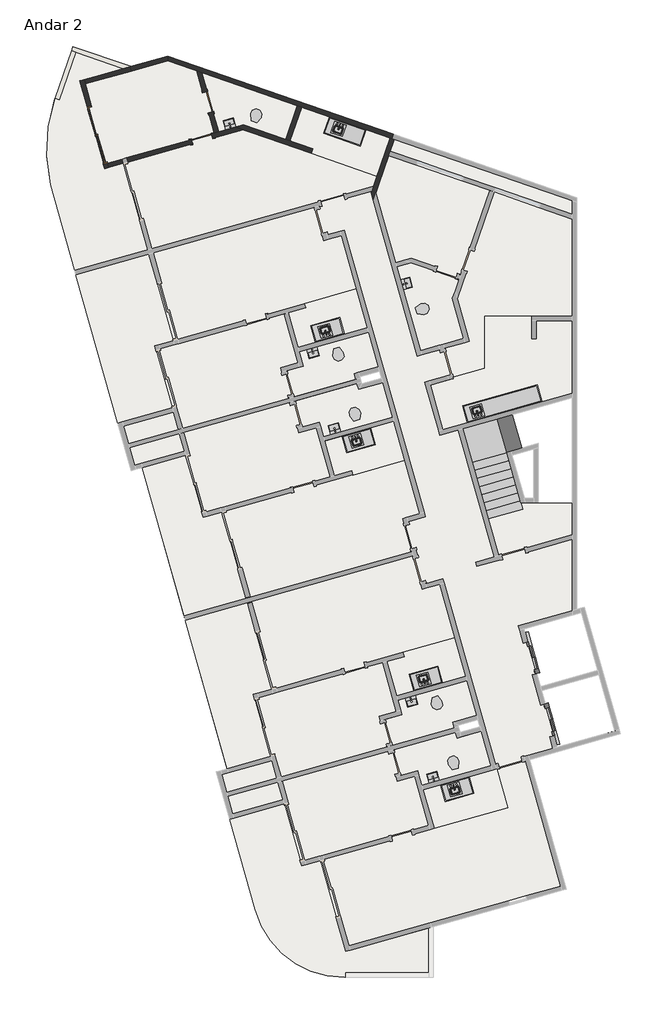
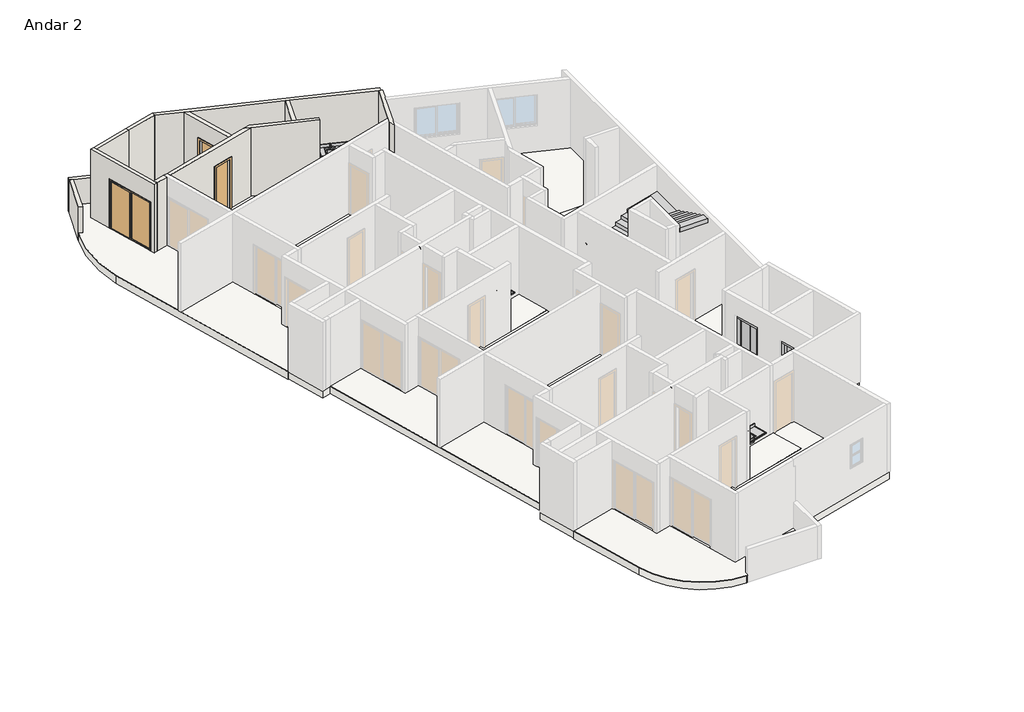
# One storey, part 3 of 3: 18 flow terminals, 18 slabs, 12 walls, 8 proxies, 3 doors, 1 stair flight.
"""IFC4 building model written with IfcOpenShell, lengths in millimetres."""

from ifc_helpers import new_model, si_unit, point, frame, frame_2d, origin, place, context, project, spatial, polyline, circle_curve, trimmed, segment, composite_curve, outline, extrude, faceted_brep, transform, mapped, element, save
from components import specialty_equipment_6c35da8b, specialty_equipment_77dfa124, rf_bancada_cozinha_rf_bancada_cozinha_340fef9f, rf_bancada_cozinha_rf_bancada_cozinha_cfb88ba1, rf_bancada_cozinha_rf_bancada_cozinha_2f873929, rf_bancada_cozinha_rf_bancada_cozinha_798ceddf, p3_70cm_ef4d15e3, p3_70cm_0a698c7c, p4_correr_200cm_eaaa0877, flow_terminal_cab7bae2, flow_terminal_3fb7dc42, flow_terminal_e42b9071, flow_terminal_c6e042c4, ap_01_creme_cr37_13e02e03, ap_01_creme_cr37_5ce6e54d

model = new_model("IFC4")

# Units and contexts
model_context = context("Model", 3, world=origin())
ifc_project = project(units=[si_unit("LENGTHUNIT", "METRE", prefix="MILLI")], contexts=[model_context])

# Site, building, storey
site = spatial("IfcSite", under=ifc_project)
building = spatial("IfcBuilding", under=site)
storey = spatial("IfcBuildingStorey", under=building, Name="Andar 2", Elevation=56550.0)

# Proxies
placement = place(None, origin())
specialty_equipment_shape = specialty_equipment_6c35da8b(model_context)
element("IfcBuildingElementProxy", 1, Name="Porta do elevador : Porta do elevador", ObjectType="Porta do elevador : Porta do elevador", at=placement, inside=storey, context=model_context, shape_type="MappedRepresentation", body=[
    mapped(specialty_equipment_shape, transform((-76594.4337486, 15747.4543727, 56550.0), x_axis=(0.27176796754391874, -0.9623628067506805, 0.0), y_axis=(0.9623628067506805, 0.27176796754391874, 0.0), z_axis=(0.0, 0.0, 1.0))),
])
specialty_equipment_2_shape = specialty_equipment_77dfa124(model_context)
element("IfcBuildingElementProxy", 2, Name="Porta do elevador : Porta do elevador", ObjectType="Porta do elevador : Porta do elevador", at=placement, inside=storey, context=model_context, shape_type="MappedRepresentation", body=[
    mapped(specialty_equipment_2_shape, transform((-75942.1906265, 13437.7836365, 56550.0), x_axis=(-0.27176796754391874, 0.9623628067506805, 0.0), y_axis=(-0.9623628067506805, -0.27176796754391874, 0.0), z_axis=(0.0, 0.0, 1.0))),
])
rf_bancada_cozinha_rf_bancada_cozinha_shape = rf_bancada_cozinha_rf_bancada_cozinha_340fef9f(model_context)
element("IfcBuildingElementProxy", 3, Name="RF_Bancada Cozinha : RF_Bancada Cozinha", ObjectType="RF_Bancada Cozinha : RF_Bancada Cozinha", at=placement, inside=storey, context=model_context, shape_type="MappedRepresentation", body=[
    mapped(rf_bancada_cozinha_rf_bancada_cozinha_shape, transform((-82760.548019, 26451.5820971, 57300.0), x_axis=(-0.9623628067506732, -0.27176796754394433, 0.0), y_axis=(0.27176796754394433, -0.9623628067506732, 0.0), z_axis=(0.0, 0.0, 1.0))),
])
element("IfcBuildingElementProxy", 4, Name="RF_Bancada Cozinha : RF_Bancada Cozinha", ObjectType="RF_Bancada Cozinha : RF_Bancada Cozinha", at=placement, inside=storey, context=model_context, shape_type="MappedRepresentation", body=[
    mapped(rf_bancada_cozinha_rf_bancada_cozinha_shape, transform((-79472.1556117, 14806.9921354, 57300.0), x_axis=(-0.9623628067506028, -0.2717679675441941, 0.0), y_axis=(0.2717679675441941, -0.9623628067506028, 0.0), z_axis=(0.0, 0.0, 1.0))),
])
rf_bancada_cozinha_rf_bancada_cozinha_2_shape = rf_bancada_cozinha_rf_bancada_cozinha_cfb88ba1(model_context)
element("IfcBuildingElementProxy", 5, Name="RF_Bancada Cozinha : RF_Bancada Cozinha", ObjectType="RF_Bancada Cozinha : RF_Bancada Cozinha", at=placement, inside=storey, context=model_context, shape_type="MappedRepresentation", body=[
    mapped(rf_bancada_cozinha_rf_bancada_cozinha_2_shape, transform((-81877.3021245, 23323.9029751, 57300.0), x_axis=(-0.9623628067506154, -0.27176796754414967, 0.0), y_axis=(0.27176796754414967, -0.9623628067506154, 0.0), z_axis=(0.0, 0.0, 1.0))),
])
element("IfcBuildingElementProxy", 6, Name="RF_Bancada Cozinha : RF_Bancada Cozinha", ObjectType="RF_Bancada Cozinha : RF_Bancada Cozinha", at=placement, inside=storey, context=model_context, shape_type="MappedRepresentation", body=[
    mapped(rf_bancada_cozinha_rf_bancada_cozinha_2_shape, transform((-78588.9097172, 11679.3130134, 57300.0), x_axis=(-0.9623628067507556, -0.27176796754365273, 0.0), y_axis=(0.27176796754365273, -0.9623628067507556, 0.0), z_axis=(0.0, 0.0, 1.0))),
])
rf_bancada_cozinha_rf_bancada_cozinha_3_shape = rf_bancada_cozinha_rf_bancada_cozinha_2f873929(model_context)
element("IfcBuildingElementProxy", 7, Name="RF_Bancada Cozinha : RF_Bancada Cozinha", ObjectType="RF_Bancada Cozinha : RF_Bancada Cozinha", at=placement, inside=storey, context=model_context, shape_type="MappedRepresentation", body=[
    mapped(rf_bancada_cozinha_rf_bancada_cozinha_3_shape, transform((-82030.0326121, 33293.9830661, 57300.0), x_axis=(-0.9449109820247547, 0.32732741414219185, 0.0), y_axis=(-0.32732741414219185, -0.9449109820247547, 0.0), z_axis=(0.0, 0.0, 1.0))),
])
rf_bancada_cozinha_rf_bancada_cozinha_4_shape = rf_bancada_cozinha_rf_bancada_cozinha_798ceddf(model_context)
element("IfcBuildingElementProxy", 8, Name="RF_Bancada Cozinha : RF_Bancada Cozinha", ObjectType="RF_Bancada Cozinha : RF_Bancada Cozinha", at=placement, inside=storey, context=model_context, shape_type="MappedRepresentation", body=[
    mapped(rf_bancada_cozinha_rf_bancada_cozinha_4_shape, transform((-76157.6622331, 24197.9763092, 57300.0), x_axis=(-0.9623628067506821, -0.27176796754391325, 0.0), y_axis=(0.27176796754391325, -0.9623628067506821, 0.0), z_axis=(0.0, 0.0, 1.0))),
])

# Doors
p3_70cm_shape = p3_70cm_ef4d15e3(model_context)
element("IfcDoor", 9, ObjectType="M_Folha única1 : P3 - 70CM", at=placement, inside=storey, context=model_context, shape_type="MappedRepresentation", body=[
    mapped(p3_70cm_shape, transform((-87513.806232, 32980.5300491, 56550.0), x_axis=(0.9623628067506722, 0.2717679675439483, 0.0), y_axis=(-0.2717679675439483, 0.9623628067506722, 0.0), z_axis=(0.0, 0.0, 1.0))),
])
p3_70cm_2_shape = p3_70cm_0a698c7c(model_context)
element("IfcDoor", 10, ObjectType="M_Folha única1 : P3 - 70CM", at=placement, inside=storey, context=model_context, shape_type="MappedRepresentation", body=[
    mapped(p3_70cm_2_shape, transform((-87314.304722, 34205.8663896, 56550.0), x_axis=(-0.2717679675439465, 0.9623628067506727, 0.0), y_axis=(-0.9623628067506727, -0.2717679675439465, 0.0), z_axis=(0.0, 0.0, 1.0))),
])
p4_correr_200cm_shape = p4_correr_200cm_eaaa0877(model_context)
element("IfcDoor", 11, ObjectType="Porta de correr dupla envidraçada sem revestimento : P4 - CORRER - 200CM", at=placement, inside=storey, context=model_context, shape_type="MappedRepresentation", body=[
    mapped(p4_correr_200cm_shape, transform((-91005.8131296, 33111.4415743, 56550.0), x_axis=(0.2717679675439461, -0.9623628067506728, 0.0), y_axis=(0.9623628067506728, 0.2717679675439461, 0.0), z_axis=(0.0, 0.0, 1.0))),
])

# Flow terminals
flow_terminal_shape = flow_terminal_cab7bae2(model_context)
element("IfcFlowTerminal", 12, ObjectType="RF_Pias : Pia da Bancada", at=placement, inside=storey, context=model_context, shape_type="MappedRepresentation", body=[
    mapped(flow_terminal_shape, transform((-83380.5102831, 26570.4992214, 56402.9), x_axis=(-0.9623628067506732, -0.27176796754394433, 0.0), y_axis=(0.27176796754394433, -0.9623628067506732, 0.0), z_axis=(0.0, 0.0, 1.0))),
])
element("IfcFlowTerminal", 13, ObjectType="RF_Pias : Pia da Bancada", at=placement, inside=storey, context=model_context, shape_type="MappedRepresentation", body=[
    mapped(flow_terminal_shape, transform((-80092.1178758, 14925.9092597, 56402.9), x_axis=(-0.9623628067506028, -0.2717679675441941, 0.0), y_axis=(0.2717679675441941, -0.9623628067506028, 0.0), z_axis=(0.0, 0.0, 1.0))),
])
element("IfcFlowTerminal", 14, ObjectType="RF_Pias : Pia da Bancada", at=placement, inside=storey, context=model_context, shape_type="MappedRepresentation", body=[
    mapped(flow_terminal_shape, transform((-78306.8185143, 23885.0542694, 56402.9), x_axis=(-0.9623628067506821, -0.27176796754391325, 0.0), y_axis=(0.27176796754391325, -0.9623628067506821, 0.0), z_axis=(0.0, 0.0, 1.0))),
])
flow_terminal_2_shape = flow_terminal_3fb7dc42(model_context)
element("IfcFlowTerminal", 15, ObjectType="Deca_Cuba de Apoio Retangular_L7300 : L.7300.17_Branco Gelo GE17", at=placement, inside=storey, context=model_context, shape_type="MappedRepresentation", body=[
    mapped(flow_terminal_2_shape, transform((-83090.0822283, 23308.7374016, 57300.0), x_axis=(-0.9623628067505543, -0.2717679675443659, 0.0), y_axis=(0.2717679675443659, -0.9623628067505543, 0.0), z_axis=(0.0, 0.0, 1.0))),
])
element("IfcFlowTerminal", 16, ObjectType="Deca_Cuba de Apoio Retangular_L7300 : L.7300.17_Branco Gelo GE17", at=placement, inside=storey, context=model_context, shape_type="MappedRepresentation", body=[
    mapped(flow_terminal_2_shape, transform((-79801.689821, 11664.1474399, 57300.0), x_axis=(-0.9623628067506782, -0.2717679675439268, 0.0), y_axis=(0.2717679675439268, -0.9623628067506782, 0.0), z_axis=(0.0, 0.0, 1.0))),
])
element("IfcFlowTerminal", 17, ObjectType="Deca_Cuba de Apoio Retangular_L7300 : L.7300.17_Branco Gelo GE17", at=placement, inside=storey, context=model_context, shape_type="MappedRepresentation", body=[
    mapped(flow_terminal_2_shape, transform((-80677.0991462, 28154.8020678, 57300.0), x_axis=(-0.2717679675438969, 0.9623628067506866, 0.0), y_axis=(-0.9623628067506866, -0.2717679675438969, 0.0), z_axis=(0.0, 0.0, 1.0))),
])
element("IfcFlowTerminal", 18, ObjectType="Deca_Cuba de Apoio Retangular_L7300 : L.7300.17_Branco Gelo GE17", at=placement, inside=storey, context=model_context, shape_type="MappedRepresentation", body=[
    mapped(flow_terminal_2_shape, transform((-86597.4204814, 33488.7004496, 57300.0), x_axis=(-0.9623628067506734, -0.27176796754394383, 0.0), y_axis=(0.27176796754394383, -0.9623628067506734, 0.0), z_axis=(0.0, 0.0, 1.0))),
])
flow_terminal_3_shape = flow_terminal_e42b9071(model_context)
element("IfcFlowTerminal", 19, ObjectType="Deca_Cuba de Apoio Retangular_L7300 : L.7300.17_Branco Gelo GE17", at=placement, inside=storey, context=model_context, shape_type="MappedRepresentation", body=[
    mapped(flow_terminal_3_shape, transform((-83802.1143033, 25830.1279553, 57300.0), x_axis=(-0.9623628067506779, -0.2717679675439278, 0.0), y_axis=(0.2717679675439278, -0.9623628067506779, 0.0), z_axis=(0.0, 0.0, 1.0))),
])
element("IfcFlowTerminal", 20, ObjectType="Deca_Cuba de Apoio Retangular_L7300 : L.7300.17_Branco Gelo GE17", at=placement, inside=storey, context=model_context, shape_type="MappedRepresentation", body=[
    mapped(flow_terminal_3_shape, transform((-80513.721896, 14185.5379936, 57300.0), x_axis=(-0.962362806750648, -0.27176796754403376, 0.0), y_axis=(0.27176796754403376, -0.962362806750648, 0.0), z_axis=(0.0, 0.0, 1.0))),
])
flow_terminal_4_shape = flow_terminal_c6e042c4(model_context)
element("IfcFlowTerminal", 21, ObjectType="RF_Pias : Pia da Bancada", at=placement, inside=storey, context=model_context, shape_type="MappedRepresentation", body=[
    mapped(flow_terminal_4_shape, transform((-82343.483233, 22898.2626745, 56402.9), x_axis=(-0.9623628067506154, -0.27176796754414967, 0.0), y_axis=(0.27176796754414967, -0.9623628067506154, 0.0), z_axis=(0.0, 0.0, 1.0))),
])
element("IfcFlowTerminal", 22, ObjectType="RF_Pias : Pia da Bancada", at=placement, inside=storey, context=model_context, shape_type="MappedRepresentation", body=[
    mapped(flow_terminal_4_shape, transform((-79055.0908257, 11253.6727129, 56402.9), x_axis=(-0.9623628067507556, -0.27176796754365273, 0.0), y_axis=(0.27176796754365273, -0.9623628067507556, 0.0), z_axis=(0.0, 0.0, 1.0))),
])
element("IfcFlowTerminal", 23, ObjectType="RF_Pias : Pia da Bancada", at=placement, inside=storey, context=model_context, shape_type="MappedRepresentation", body=[
    mapped(flow_terminal_4_shape, transform((-82939.3392028, 33309.5545572, 56402.9), x_axis=(-0.9449109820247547, 0.32732741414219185, 0.0), y_axis=(-0.32732741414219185, -0.9449109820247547, 0.0), z_axis=(0.0, 0.0, 1.0))),
])
ap_01_creme_cr37_shape = ap_01_creme_cr37_13e02e03(model_context)
element("IfcFlowTerminal", 24, ObjectType="Deca_Shared_Assento_P.900 : AP.01_Creme CR37", at=placement, inside=storey, context=model_context, shape_type="MappedRepresentation", body=[
    mapped(ap_01_creme_cr37_shape, transform((-83017.5301151, 25983.4740486, 56937.8723674), x_axis=(0.9623628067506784, 0.2717679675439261, 0.0), y_axis=(0.0, 0.0, 1.0), z_axis=(0.2717679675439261, -0.9623628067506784, 0.0))),
])
element("IfcFlowTerminal", 25, ObjectType="Deca_Shared_Assento_P.900 : AP.01_Creme CR37", at=placement, inside=storey, context=model_context, shape_type="MappedRepresentation", body=[
    mapped(ap_01_creme_cr37_shape, transform((-79729.1377078, 14338.8840869, 56937.8723674), x_axis=(0.962362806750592, 0.2717679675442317, 0.0), y_axis=(0.0, 0.0, 1.0), z_axis=(0.2717679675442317, -0.962362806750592, 0.0))),
])
element("IfcFlowTerminal", 26, ObjectType="Deca_Shared_Assento_P.900 : AP.01_Creme CR37", at=placement, inside=storey, context=model_context, shape_type="MappedRepresentation", body=[
    mapped(ap_01_creme_cr37_shape, transform((-80349.5164684, 27236.3600819, 56937.8723674), x_axis=(-0.271767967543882, 0.9623628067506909, 0.0), y_axis=(0.0, 0.0, 1.0), z_axis=(0.9623628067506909, 0.271767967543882, 0.0))),
])
element("IfcFlowTerminal", 27, ObjectType="Deca_Shared_Assento_P.900 : AP.01_Creme CR37", at=placement, inside=storey, context=model_context, shape_type="MappedRepresentation", body=[
    mapped(ap_01_creme_cr37_shape, transform((-85777.8760768, 33566.4131555, 56937.8723674), x_axis=(-0.9449109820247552, 0.3273274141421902, 0.0), y_axis=(0.0, 0.0, 1.0000000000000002), z_axis=(0.3273274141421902, 0.9449109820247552, 0.0))),
])
ap_01_creme_cr37_2_shape = ap_01_creme_cr37_5ce6e54d(model_context)
element("IfcFlowTerminal", 28, ObjectType="Deca_Shared_Assento_P.900 : AP.01_Creme CR37", at=placement, inside=storey, context=model_context, shape_type="MappedRepresentation", body=[
    mapped(ap_01_creme_cr37_2_shape, transform((-82341.1813229, 23588.4422577, 56937.8723674), x_axis=(0.9623628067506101, 0.27176796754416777, 0.0), y_axis=(0.0, 0.0, -1.0), z_axis=(-0.27176796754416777, 0.9623628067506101, 0.0))),
])
element("IfcFlowTerminal", 29, ObjectType="Deca_Shared_Assento_P.900 : AP.01_Creme CR37", at=placement, inside=storey, context=model_context, shape_type="MappedRepresentation", body=[
    mapped(ap_01_creme_cr37_2_shape, transform((-79052.7889156, 11943.852296, 56937.8723674), x_axis=(0.9623628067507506, 0.2717679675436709, 0.0), y_axis=(0.0, 0.0, -1.0000000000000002), z_axis=(-0.2717679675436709, 0.9623628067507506, 0.0))),
])

# Slabs
element("IfcSlab", 30, ObjectType="TZ_Piso de Áreas Molhadas", at=placement, inside=storey, context=model_context, shape_type="SweptSolid", body=[
    extrude(outline(composite_curve([segment(polyline([(-90765.4571774, 31984.341749), (-90143.7425806, 32159.9118263), (-89328.438678, 29272.823406), (-91766.0080564, 28584.4621444), (-92573.2320087, 31442.9384962)]), True, "CONTINUOUS"), segment(trimmed(circle_curve(frame_2d((-87414.5556743, 32622.5665107)), 5291.829908), [point((-92573.2320087, 31442.9384962))], [point((-92422.0860726, 34333.7366032))], False, "CARTESIAN"), True, "CONTINUOUS"), segment(polyline([(-92422.0860726, 34333.7366032), (-92280.2794148, 34284.6132387), (-91729.7010481, 35873.9929322), (-90151.0501028, 35327.1311202), (-91594.3494784, 34919.5483093), (-90765.4571774, 31984.341749)]), True, "CONTINUOUS")], self_intersect=False)), frame((0.0, 0.0, 56550.0), z_axis=(0.0, 0.0, 1.0), x_axis=(1.0, 0.0, 0.0)), (0.0, 0.0, 1.0), 20.0),
])
element("IfcSlab", 31, ObjectType="TZ_Piso de Áreas Molhadas", at=placement, inside=storey, context=model_context, shape_type="SweptSolid", body=[
    extrude(outline(polyline([(-88472.3695802, 26241.3805647), (-89094.084177, 26065.8104874), (-88509.7830468, 23996.7304529), (-90325.6378284, 23483.9392686), (-91725.2428613, 28440.1077234), (-89287.6734828, 29128.468985), (-88472.3695802, 26241.3805647)])), frame((0.0, 0.0, 56550.0), z_axis=(0.0, 0.0, 1.0), x_axis=(1.0, 0.0, 0.0)), (0.0, 0.0, 1.0), 20.0),
])
element("IfcSlab", 32, ObjectType="TZ_Piso de Áreas Molhadas", at=placement, inside=storey, context=model_context, shape_type="SweptSolid", body=[
    extrude(outline(polyline([(-86855.3501733, 20515.3218645), (-86040.0462707, 17628.2334443), (-88109.1263052, 17043.9323141), (-89508.731338, 22000.1007688), (-88061.3659003, 22408.8318218), (-87477.0647701, 20339.7517872), (-86855.3501733, 20515.3218645)])), frame((0.0, 0.0, 56550.0), z_axis=(0.0, 0.0, 1.0), x_axis=(1.0, 0.0, 0.0)), (0.0, 0.0, 1.0), 20.0),
])
element("IfcSlab", 33, ObjectType="TZ_Piso de Áreas Molhadas", at=placement, inside=storey, context=model_context, shape_type="SweptSolid", body=[
    extrude(outline(polyline([(-78926.5637691, 28284.9851582), (-79146.9727346, 27648.7205404), (-78771.1333302, 26317.8283554), (-80214.6775403, 25910.176404), (-81004.3851492, 28706.6252933), (-80530.2499593, 28840.5194505), (-78926.5637691, 28284.9851582)])), frame((0.0, 0.0, 56550.0), z_axis=(0.0, 0.0, 1.0), x_axis=(1.0, 0.0, 0.0)), (0.0, 0.0, 1.0), 20.0),
])
element("IfcSlab", 34, ObjectType="TZ_Piso de Áreas Molhadas", at=placement, inside=storey, context=model_context, shape_type="SweptSolid", body=[
    extrude(outline(polyline([(-78070.9150345, 27060.8243598), (-76493.6479314, 27060.8243598), (-76493.6479314, 26310.8243598), (-76343.6479314, 26310.8243598), (-76343.6479314, 26910.8243598), (-75147.8282189, 26910.8243598), (-75147.8282189, 24483.4871675), (-79467.3156296, 23263.6786855), (-79888.5559793, 24755.3410359), (-79127.7601479, 24970.1871785), (-79141.3485461, 25018.3053183), (-78070.9150345, 25320.5920836), (-78070.9150345, 27060.8243598)])), frame((0.0, 0.0, 56550.0), z_axis=(0.0, 0.0, 1.0), x_axis=(1.0, 0.0, 0.0)), (0.0, 0.0, 1.0), 20.0),
])
element("IfcSlab", 35, ObjectType="TZ_Piso de Áreas Molhadas", at=placement, inside=storey, context=model_context, shape_type="SweptSolid", body=[
    extrude(outline(polyline([(-84719.4810559, 32955.6762822), (-86137.8721095, 33447.0223292), (-86956.7711455, 33215.7680402), (-87515.4733556, 35194.1992432), (-84326.6881589, 34089.5694606), (-84719.4810559, 32955.6762822)])), frame((0.0, 0.0, 56550.0), z_axis=(0.0, 0.0, 1.0), x_axis=(1.0, 0.0, 0.0)), (0.0, 0.0, 1.0), 20.0),
])
element("IfcSlab", 36, ObjectType="TZ_Piso de Áreas Molhadas", at=placement, inside=storey, context=model_context, shape_type="SweptSolid", body=[
    extrude(outline(polyline([(-84577.7444086, 32906.57717), (-84184.9515116, 34040.4703485), (-81226.8582774, 33015.7547641), (-81668.7502865, 31740.1249383), (-83870.9147351, 32502.9785914), (-83821.815623, 32644.7152387), (-84577.7444086, 32906.57717)])), frame((0.0, 0.0, 56550.0), z_axis=(0.0, 0.0, 1.0), x_axis=(1.0, 0.0, 0.0)), (0.0, 0.0, 1.0), 20.0),
])
element("IfcSlab", 37, ObjectType="TZ_Piso de Áreas Molhadas", at=placement, inside=storey, context=model_context, shape_type="SweptSolid", body=[
    extrude(outline(polyline([(-81949.8925784, 26524.6420501), (-81623.7710174, 25369.806682), (-82432.1557751, 25141.5215893), (-82377.8021816, 24949.0490279), (-84456.5058441, 24362.030218), (-84701.0970149, 25228.1567441), (-84123.6793309, 25391.2175246), (-84259.5633146, 25872.398928), (-81949.8925784, 26524.6420501)])), frame((0.0, 0.0, 56550.0), z_axis=(0.0, 0.0, 1.0), x_axis=(1.0, 0.0, 0.0)), (0.0, 0.0, 1.0), 20.0),
])
element("IfcSlab", 38, ObjectType="TZ_Piso de Áreas Molhadas", at=placement, inside=storey, context=model_context, shape_type="SweptSolid", body=[
    extrude(outline(polyline([(-84089.7975819, 27479.0039186), (-82357.5445298, 27968.1862602), (-81990.6577736, 26668.9964711), (-84300.3285098, 26016.753349), (-84626.4500708, 27171.5887171), (-84049.0323868, 27334.6494976), (-84089.7975819, 27479.0039186)])), frame((0.0, 0.0, 56550.0), z_axis=(0.0, 0.0, 1.0), x_axis=(1.0, 0.0, 0.0)), (0.0, 0.0, 1.0), 20.0),
])
element("IfcSlab", 39, ObjectType="TZ_Piso de Áreas Molhadas", at=placement, inside=storey, context=model_context, shape_type="SweptSolid", body=[
    extrude(outline(polyline([(-84171.1494782, 23351.5492709), (-84415.740649, 24217.675797), (-82337.0369864, 24804.6946069), (-82282.6833929, 24612.2220455), (-81474.2986352, 24840.5071383), (-81148.1770742, 23685.6717702), (-83457.8478104, 23033.4286481), (-83593.7317942, 23514.6100514), (-84171.1494782, 23351.5492709)])), frame((0.0, 0.0, 56550.0), z_axis=(0.0, 0.0, 1.0), x_axis=(1.0, 0.0, 0.0)), (0.0, 0.0, 1.0), 20.0),
])
element("IfcSlab", 40, ObjectType="TZ_Piso de Áreas Molhadas", at=placement, inside=storey, context=model_context, shape_type="SweptSolid", body=[
    extrude(outline(composite_curve([segment(polyline([(-79945.4990038, 5119.4122055), (-82713.5540687, 5119.4122055), (-82713.5540687, 4969.4122055), (-82751.3896972, 4969.4122055)]), True, "CONTINUOUS"), segment(trimmed(circle_curve(frame_2d((-82751.3896972, 8069.4122055)), 3100.0), [point((-82751.3896972, 4969.4122055))], [point((-85734.7143981, 7226.9315061))], False, "CARTESIAN"), True, "CONTINUOUS"), segment(polyline([(-85734.7143981, 7226.9315061), (-86588.8282733, 10251.4506708), (-84772.9735093, 10764.2419177), (-84188.6722855, 8695.1618243), (-83566.957766, 8870.7319029), (-82710.8885369, 5839.2889958), (-79945.4990038, 6620.2256515), (-79945.4990038, 5119.4122055)]), True, "CONTINUOUS")], self_intersect=False)), frame((0.0, 0.0, 56550.0), z_axis=(0.0, 0.0, 1.0), x_axis=(1.0, 0.0, 0.0)), (0.0, 0.0, 1.0), 20.0),
])
element("IfcSlab", 41, ObjectType="TZ_Piso de Áreas Molhadas", at=placement, inside=storey, context=model_context, shape_type="SweptSolid", body=[
    extrude(outline(polyline([(-78185.906228, 13195.9171766), (-77859.7846669, 12041.0818085), (-80169.4554031, 11388.8386864), (-80305.3393869, 11870.0200898), (-80882.7570709, 11706.9593092), (-81127.3482417, 12573.0858353), (-79048.6445791, 13160.1046452), (-78994.2909856, 12967.6320839), (-78185.906228, 13195.9171766)])), frame((0.0, 0.0, 56550.0), z_axis=(0.0, 0.0, 1.0), x_axis=(1.0, 0.0, 0.0)), (0.0, 0.0, 1.0), 20.0),
])
element("IfcSlab", 42, ObjectType="TZ_Piso de Áreas Molhadas", at=placement, inside=storey, context=model_context, shape_type="SweptSolid", body=[
    extrude(outline(polyline([(-77307.7782946, 10638.3027935), (-79761.8034518, 9945.2944763), (-80128.690208, 11244.4842654), (-77674.6650508, 11937.4925826), (-77307.7782946, 10638.3027935)])), frame((0.0, 0.0, 56550.0), z_axis=(0.0, 0.0, 1.0), x_axis=(1.0, 0.0, 0.0)), (0.0, 0.0, 1.0), 20.0),
])
element("IfcSlab", 43, ObjectType="TZ_Piso de Áreas Molhadas", at=placement, inside=storey, context=model_context, shape_type="SweptSolid", body=[
    extrude(outline(polyline([(-81107.9410005, 23543.1910314), (-80740.5251229, 22242.1275601), (-82472.778175, 21752.9452185), (-82513.5433702, 21897.2996395), (-83090.9610542, 21734.238859), (-83418.0192411, 22888.8089065), (-81107.9410005, 23543.1910314)])), frame((0.0, 0.0, 56550.0), z_axis=(0.0, 0.0, 1.0), x_axis=(1.0, 0.0, 0.0)), (0.0, 0.0, 1.0), 20.0),
])
element("IfcSlab", 44, ObjectType="TZ_Piso de Áreas Molhadas", at=placement, inside=storey, context=model_context, shape_type="SweptSolid", body=[
    extrude(outline(polyline([(-85183.9771729, 14596.790603), (-85805.6917697, 14421.2205257), (-85221.3906395, 12352.1404912), (-86668.7560772, 11943.4094383), (-88068.36111, 16899.5778931), (-85999.2810755, 17483.8790233), (-85183.9771729, 14596.790603)])), frame((0.0, 0.0, 56550.0), z_axis=(0.0, 0.0, 1.0), x_axis=(1.0, 0.0, 0.0)), (0.0, 0.0, 1.0), 20.0),
])
element("IfcSlab", 45, ObjectType="TZ_Piso de Áreas Molhadas", at=placement, inside=storey, context=model_context, shape_type="SweptSolid", body=[
    extrude(outline(polyline([(-81412.7046076, 13583.5667824), (-80835.2869236, 13746.6275629), (-80971.1709074, 14227.8089663), (-78661.5001712, 14880.0520884), (-78335.3786101, 13725.2167203), (-79143.7633678, 13496.9316276), (-79089.4097743, 13304.4590662), (-81168.1134368, 12717.4402563), (-81412.7046076, 13583.5667824)])), frame((0.0, 0.0, 56550.0), z_axis=(0.0, 0.0, 1.0), x_axis=(1.0, 0.0, 0.0)), (0.0, 0.0, 1.0), 20.0),
])
element("IfcSlab", 46, ObjectType="TZ_Piso de Áreas Molhadas", at=placement, inside=storey, context=model_context, shape_type="SweptSolid", body=[
    extrude(outline(polyline([(-78701.7362448, 15022.5328272), (-81012.8731576, 14371.8995868), (-81338.0576635, 15526.9987554), (-80760.6399795, 15690.059536), (-80801.4051746, 15834.413957), (-79069.1521225, 16323.5962985), (-78701.7362448, 15022.5328272)])), frame((0.0, 0.0, 56550.0), z_axis=(0.0, 0.0, 1.0), x_axis=(1.0, 0.0, 0.0)), (0.0, 0.0, 1.0), 20.0),
])
element("IfcSlab", 47, ObjectType="TZ_Laje 30cm", at=placement, inside=storey, context=model_context, shape_type="SweptSolid", body=[
    extrude(outline(composite_curve([segment(polyline([(-82713.5540687, 4969.4122055), (-82751.3896972, 4969.4122055)]), True, "CONTINUOUS"), segment(trimmed(circle_curve(frame_2d((-82751.3896972, 8069.4122055)), 3100.0), [point((-82751.3896972, 4969.4122055))], [point((-85734.7143981, 7226.9315061))], False, "CARTESIAN"), True, "CONTINUOUS"), segment(polyline([(-85734.7143981, 7226.9315061), (-86588.8282747, 10251.4506758), (-86574.3928326, 10255.5271953), (-87018.7334595, 11828.9903844), (-86664.6795577, 11928.9739962), (-89512.8078575, 22014.5362109), (-89866.8617594, 21914.5525991), (-90311.2023863, 23488.0157882), (-90325.6378284, 23483.9392686), (-92573.2320087, 31442.9384962)]), True, "CONTINUOUS"), segment(trimmed(circle_curve(frame_2d((-87414.5556743, 32622.5665107)), 5291.829908), [point((-92573.2320087, 31442.9384962))], [point((-92426.4466323, 34320.9224218))], False, "CARTESIAN"), True, "CONTINUOUS"), segment(polyline([(-92426.4466323, 34320.9224218), (-92422.0160621, 34333.7123509), (-92403.1178425, 34327.1658026), (-91809.986912, 36039.3839237), (-89899.2062586, 35377.468778), (-88658.6666899, 35727.7929124), (-75017.8282189, 31002.4584964), (-75017.8282189, 17238.3098681), (-74750.7083414, 17313.7436086), (-73565.8000029, 13117.8417711), (-76592.4310301, 12263.1315132), (-75369.6745845, 7933.2050117), (-79815.4990038, 6677.7193903), (-79815.4990038, 4989.4122055), (-82713.5540687, 4989.4122055), (-82713.5540687, 4969.4122055)]), True, "CONTINUOUS")], self_intersect=False), holes=[polyline([(-81583.0058223, 25225.452261), (-82247.0361589, 25037.9323634), (-82179.094167, 24797.3416617), (-81515.0638304, 24984.8615593), (-81583.0058223, 25225.452261)]), polyline([(-78294.613415, 13580.8622993), (-78958.6437516, 13393.3424017), (-78890.7017597, 13152.7517), (-78226.6714231, 13340.2715976), (-78294.613415, 13580.8622993)]), polyline([(-74840.4856705, 17153.3066079), (-76760.3994699, 16611.1295126), (-76221.8794944, 14704.1660107), (-75646.150803, 12665.442005), (-73726.2370035, 13207.6191002), (-74270.7319215, 15135.7405865), (-74840.4856705, 17153.3066079)]), polyline([(-77952.9130698, 20291.1915783), (-76801.2963825, 20616.4041949), (-76858.5413412, 20819.1154254), (-75147.8282189, 20819.1154254), (-75147.8282189, 24343.0530162), (-78807.9060206, 23309.4595541), (-77952.9130698, 20291.1915783)])]), frame((0.0, 0.0, 56250.0), z_axis=(0.0, 0.0, 1.0), x_axis=(1.0, 0.0, 0.0)), (0.0, 0.0, 1.0), 300.0),
])

# Stair flight
element("IfcStairFlight", 48, ObjectType="Profundidade de 150mm", at=placement, inside=storey, context=model_context, shape_type="Brep", body=[
    faceted_brep([(-78029.0944782, 20560.1246789, 56688.0952381), (-77952.7808761, 20290.7249124, 56688.0952381), (-76802.2714069, 20616.6328483, 56688.0952381), (-76878.3664628, 20886.0945229, 56688.0952381), (-78029.0944782, 20560.1246789, 56550.0), (-77952.7808761, 20290.7249124, 56550.0), (-76802.2714069, 20616.6328483, 56550.0), (-76878.3664628, 20886.0945229, 56550.0), (-78105.4080802, 20829.5244453, 56826.1904762), (-78029.0944782, 20560.1246789, 56826.1904762), (-76878.3664628, 20886.0945229, 56826.1904762), (-76954.4615188, 21155.5561975, 56826.1904762), (-78105.4080802, 20829.5244453, 56658.939228), (-78045.2065482, 20617.0029783, 56550.0), (-76894.4323913, 20942.985893, 56550.0), (-76954.4615188, 21155.5561975, 56658.939228), (-78181.7216823, 21098.9242117, 56964.2857143), (-78105.4080802, 20829.5244453, 56964.2857143), (-76954.4615188, 21155.5561975, 56964.2857143), (-77030.5565747, 21425.017872, 56964.2857143), (-78181.7216823, 21098.9242117, 56797.0344661), (-77030.5565747, 21425.017872, 56797.0344661), (-78258.0352843, 21368.3239781, 57102.3809524), (-78181.7216823, 21098.9242117, 57102.3809524), (-77030.5565747, 21425.017872, 57102.3809524), (-77106.6516307, 21694.4795466, 57102.3809524), (-78258.0352843, 21368.3239781, 56935.1297042), (-77106.6516307, 21694.4795466, 56935.1297042), (-78334.3488864, 21637.7237445, 57240.4761905), (-78258.0352843, 21368.3239781, 57240.4761905), (-77106.6516307, 21694.4795466, 57240.4761905), (-77182.7466866, 21963.9412211, 57240.4761905), (-78334.3488864, 21637.7237445, 57073.2249423), (-77182.7466866, 21963.9412211, 57073.2249423), (-78410.6624885, 21907.1235109, 57378.5714286), (-78334.3488864, 21637.7237445, 57378.5714286), (-77182.7466866, 21963.9412211, 57378.5714286), (-77258.8417426, 22233.4028957, 57378.5714286), (-78410.6624885, 21907.1235109, 57211.3201804), (-77258.8417426, 22233.4028957, 57211.3201804), (-78486.9760905, 22176.5232773, 57516.6666667), (-78410.6624885, 21907.1235109, 57516.6666667), (-77258.8417426, 22233.4028957, 57516.6666667), (-77334.9367985, 22502.8645702, 57516.6666667), (-78486.9760905, 22176.5232773, 57349.4154185), (-77334.9367985, 22502.8645702, 57349.4154185), (-77650.6473278, 23620.8332322, 57654.7619048), (-78803.8582924, 23295.1703972, 57654.7619048), (-78572.8230038, 22479.5772253, 57654.7619048), (-78486.9760905, 22176.5232773, 57654.7619048), (-77334.9367985, 22502.8645702, 57654.7619048), (-77337.6544782, 22512.4881983, 57654.7619048), (-77650.6473278, 23620.8332322, 57504.7619048), (-78803.8582924, 23295.1703972, 57504.7619048), (-78572.8230038, 22479.5772253, 57504.7619048), (-77420.5378643, 22805.9881601, 57504.7619048), (-77337.6544782, 22512.4881983, 57504.7619048), (-77650.6473278, 23620.8332322, 57792.8571429), (-77337.6544782, 22512.4881983, 57792.8571429), (-77303.5536842, 22522.118146, 57792.8571429), (-77083.6709973, 22584.2122653, 57792.8571429), (-77396.6638468, 23692.5572992, 57792.8571429), (-77616.5465338, 23630.4631799, 57792.8571429), (-77396.6638468, 23692.5572992, 57619.0904432), (-77616.5465338, 23630.4631799, 57504.7619048), (-77303.5536842, 22522.118146, 57504.7619048), (-77083.6709973, 22584.2122653, 57619.0904432), (-77127.202261, 23768.6523301, 57930.952381), (-77396.6638468, 23692.5572992, 57930.952381), (-77083.6709973, 22584.2122653, 57930.952381), (-76814.2094114, 22660.3072962, 57930.952381), (-77127.202261, 23768.6523301, 57759.1976509), (-76814.2094114, 22660.3072962, 57759.1976509), (-76857.7406751, 23844.747361, 58069.047619), (-77127.202261, 23768.6523301, 58069.047619), (-76814.2094114, 22660.3072962, 58069.047619), (-76544.7478255, 22736.4023271, 58069.047619), (-76857.7406751, 23844.747361, 57899.3048586), (-76544.7478255, 22736.4023271, 57899.3048586), (-76588.2790892, 23920.842392, 58207.1428571), (-76857.7406751, 23844.747361, 58207.1428571), (-76544.7478255, 22736.4023271, 58207.1428571), (-76275.2862396, 22812.497358, 58207.1428571), (-76588.2790892, 23920.842392, 58039.4120663), (-75975.593386, 22897.1295956, 58195.2380952), (-76275.2862396, 22812.497358, 58195.2380952), (-75147.8282189, 22779.1154254, 58345.2380952), (-75147.8282189, 24327.6207947, 58345.2380952), (-76288.5862355, 24005.4746296, 58345.2380952), (-76588.2790892, 23920.842392, 58345.2380952), (-76275.2862396, 22812.497358, 58345.2380952), (-76275.2862396, 22779.1154254, 58345.2380952), (-75147.8282189, 22779.1154254, 58195.2380952), (-75147.8282189, 24327.6207947, 58195.2380952), (-76288.5862355, 24005.4746296, 58195.2380952), (-76275.2862396, 22779.1154254, 58195.2380952), (-75147.8282189, 22779.1154254, 58483.3333333), (-76275.2862396, 22779.1154254, 58483.3333333), (-76275.2862396, 22744.1370326, 58483.3333333), (-76275.2862396, 22499.1154254, 58483.3333333), (-75147.8282189, 22499.1154254, 58483.3333333), (-75147.8282189, 22744.1370326, 58483.3333333), (-75147.8282189, 22499.1154254, 58316.0820852), (-75147.8282189, 22744.1370326, 58195.2380952), (-76275.2862396, 22744.1370326, 58195.2380952), (-76275.2862396, 22499.1154254, 58316.0820852), (-75147.8282189, 22219.1154254, 58621.4285714), (-75147.8282189, 22499.1154254, 58621.4285714), (-76275.2862396, 22499.1154254, 58621.4285714), (-76275.2862396, 22219.1154254, 58621.4285714), (-75147.8282189, 22219.1154254, 58454.1773233), (-76275.2862396, 22219.1154254, 58454.1773233), (-75147.8282189, 21939.1154254, 58759.5238095), (-75147.8282189, 22219.1154254, 58759.5238095), (-76275.2862396, 22219.1154254, 58759.5238095), (-76275.2862396, 21939.1154254, 58759.5238095), (-75147.8282189, 21939.1154254, 58592.2725614), (-76275.2862396, 21939.1154254, 58592.2725614), (-75147.8282189, 21659.1154254, 58897.6190476), (-75147.8282189, 21939.1154254, 58897.6190476), (-76275.2862396, 21939.1154254, 58897.6190476), (-76275.2862396, 21659.1154254, 58897.6190476), (-75147.8282189, 21659.1154254, 58730.3677995), (-76275.2862396, 21659.1154254, 58730.3677995), (-75147.8282189, 21379.1154254, 59035.7142857), (-75147.8282189, 21659.1154254, 59035.7142857), (-76275.2862396, 21659.1154254, 59035.7142857), (-76275.2862396, 21379.1154254, 59035.7142857), (-75147.8282189, 21379.1154254, 58868.4630376), (-76275.2862396, 21379.1154254, 58868.4630376), (-75147.8282189, 21099.1154254, 59173.8095238), (-75147.8282189, 21379.1154254, 59173.8095238), (-76275.2862396, 21379.1154254, 59173.8095238), (-76275.2862396, 21099.1154254, 59173.8095238), (-75147.8282189, 21099.1154254, 59006.5582757), (-76275.2862396, 21099.1154254, 59006.5582757), (-75147.8282189, 20819.1154254, 59311.9047619), (-75147.8282189, 21099.1154254, 59311.9047619), (-76275.2862396, 21099.1154254, 59311.9047619), (-76275.2862396, 20819.1154254, 59311.9047619), (-75147.8282189, 20819.1154254, 59144.6535138), (-76275.2862396, 20819.1154254, 59144.6535138), (-76275.2862396, 23958.3777566, 58195.2380952)], [[[0, 1, 2, 3]], [[1, 0, 4, 5]], [[2, 1, 5, 6]], [[3, 2, 6, 7]], [[8, 9, 10, 11]], [[4, 0, 9, 8, 12, 13]], [[0, 3, 10, 9]], [[3, 7, 14, 15, 11, 10]], [[16, 17, 18, 19]], [[17, 16, 20, 12, 8]], [[8, 11, 18, 17]], [[19, 18, 11, 15, 21]], [[22, 23, 24, 25]], [[23, 22, 26, 20, 16]], [[16, 19, 24, 23]], [[25, 24, 19, 21, 27]], [[28, 29, 30, 31]], [[29, 28, 32, 26, 22]], [[22, 25, 30, 29]], [[31, 30, 25, 27, 33]], [[34, 35, 36, 37]], [[35, 34, 38, 32, 28]], [[28, 31, 36, 35]], [[37, 36, 31, 33, 39]], [[40, 41, 42, 43]], [[41, 40, 44, 38, 34]], [[34, 37, 42, 41]], [[43, 42, 37, 39, 45]], [[46, 47, 48, 49, 50, 51]], [[47, 46, 52, 53]], [[40, 49, 48, 47, 53, 54, 44]], [[40, 43, 50, 49]], [[51, 50, 43, 45, 55, 56]], [[57, 58, 59, 60, 61, 62]], [[46, 57, 62, 61, 63, 64, 52]], [[46, 51, 58, 57]], [[58, 51, 56, 65, 66, 60, 59]], [[67, 68, 69, 70]], [[68, 67, 71, 63, 61]], [[61, 60, 69, 68]], [[70, 69, 60, 66, 72]], [[73, 74, 75, 76]], [[74, 73, 77, 71, 67]], [[67, 70, 75, 74]], [[76, 75, 70, 72, 78]], [[79, 80, 81, 82]], [[80, 79, 83, 77, 73]], [[73, 76, 81, 80]], [[82, 81, 76, 78, 84, 85]], [[86, 87, 88, 89, 90, 91]], [[87, 86, 92, 93]], [[79, 89, 88, 87, 93, 94, 83]], [[79, 82, 90, 89]], [[91, 90, 82, 85, 95]], [[96, 97, 98, 99, 100, 101]], [[86, 96, 101, 100, 102, 103, 92]], [[86, 91, 97, 96]], [[97, 91, 95, 104, 105, 99, 98]], [[106, 107, 108, 109]], [[107, 106, 110, 102, 100]], [[100, 99, 108, 107]], [[109, 108, 99, 105, 111]], [[112, 113, 114, 115]], [[113, 112, 116, 110, 106]], [[106, 109, 114, 113]], [[115, 114, 109, 111, 117]], [[118, 119, 120, 121]], [[119, 118, 122, 116, 112]], [[112, 115, 120, 119]], [[121, 120, 115, 117, 123]], [[124, 125, 126, 127]], [[125, 124, 128, 122, 118]], [[118, 121, 126, 125]], [[127, 126, 121, 123, 129]], [[130, 131, 132, 133]], [[131, 130, 134, 128, 124]], [[124, 127, 132, 131]], [[133, 132, 127, 129, 135]], [[136, 137, 138, 139]], [[137, 136, 140, 134, 130]], [[130, 133, 138, 137]], [[139, 138, 133, 135, 141]], [[136, 139, 141, 140]], [[5, 4, 13, 14, 7, 6]], [[54, 55, 45, 39, 33, 27, 21, 15, 14, 13, 12, 20, 26, 32, 38, 44]], [[55, 54, 53, 52, 64, 65, 56]], [[65, 64, 63, 71, 77, 83, 94, 142, 84, 78, 72, 66]], [[142, 94, 93, 92, 103, 104, 95, 85, 84]], [[104, 103, 102, 110, 116, 122, 128, 134, 140, 141, 135, 129, 123, 117, 111, 105]]]),
])

# Walls
element("IfcWall", 49, ObjectType="Básica .15 - Externa", at=placement, inside=storey, context=model_context, shape_type="Brep", body=[
    faceted_brep([(-88662.6343714, 35591.588263, 56550.0), (-87688.240739, 35254.0477389, 56550.0), (-87515.4733556, 35194.1992432, 56550.0), (-84326.6881589, 34089.5694606, 56550.0), (-84184.9515116, 34040.4703485, 56550.0), (-81226.8582774, 33015.7547641, 56550.0), (-81156.3583355, 32991.3328194, 56550.0), (-81156.3583355, 32991.3328194, 57850.0), (-81085.1216301, 32966.655652, 57850.0), (-81085.1216301, 32966.655652, 59150.0), (-81156.3583355, 32991.3328194, 59150.0), (-81156.3583355, 32991.3328194, 59450.0), (-81226.8582774, 33015.7547641, 59450.0), (-84184.9515116, 34040.4703485, 59450.0), (-84326.6881589, 34089.5694606, 59450.0), (-87515.4733556, 35194.1992432, 59450.0), (-87688.240739, 35254.0477389, 59450.0), (-88662.6343714, 35591.588263, 59450.0), (-88658.0562773, 35748.7474739, 56550.0), (-88658.0562773, 35748.7474739, 59450.0), (-81107.2592234, 33133.0694667, 59450.0), (-81107.2592234, 33133.0694667, 59150.0), (-81036.022518, 33108.3922993, 59150.0), (-81036.022518, 33108.3922993, 57850.0), (-81107.2592234, 33133.0694667, 57850.0), (-81107.2592234, 33133.0694667, 56550.0)], [[[0, 1, 2, 3, 4, 5, 6, 7, 8, 9, 10, 11, 12, 13, 14, 15, 16, 17]], [[18, 19, 20, 21, 22, 23, 24, 25]], [[6, 5, 4, 3, 2, 1, 0, 18, 25]], [[17, 16, 15, 14, 13, 12, 11, 20, 19]], [[0, 17, 19, 18]], [[7, 6, 25, 24]], [[23, 8, 7, 24]], [[11, 10, 21, 20]], [[21, 10, 9, 22]], [[9, 8, 23, 22]]]),
])
element("IfcWall", 50, ObjectType="Básica .15 -  Interna", at=placement, inside=storey, context=model_context, shape_type="Brep", body=[
    faceted_brep([(-81789.2550074, 30934.0017027, 56550.0), (-81703.3880158, 31181.8778654, 56550.0), (-81272.8781344, 32424.6503839, 56550.0), (-81223.7790223, 32566.3870312, 56550.0), (-81085.1216301, 32966.655652, 56550.0), (-81085.1216301, 32966.655652, 57850.0), (-81085.1216301, 32966.655652, 59150.0), (-81085.1216301, 32966.655652, 59450.0), (-81223.7790223, 32566.3870312, 59450.0), (-81272.8781344, 32424.6503839, 59450.0), (-81703.3880158, 31181.8778654, 59450.0), (-81789.2550074, 30934.0017027, 59450.0), (-81860.5472267, 31186.4559595, 56550.0), (-81860.5472267, 31186.4559595, 59450.0), (-81845.4155775, 31230.1371819, 59450.0), (-81785.5670817, 31402.9045654, 59450.0), (-81226.8582774, 33015.7547641, 59450.0), (-81226.8582774, 33015.7547641, 56550.0), (-81785.5670817, 31402.9045654, 56550.0), (-81845.4155775, 31230.1371819, 56550.0), (-81156.3583355, 32991.3328194, 56550.0), (-81156.3583355, 32991.3328194, 59450.0)], [[[0, 1, 2, 3, 4, 5, 6, 7, 8, 9, 10, 11]], [[12, 13, 14, 15, 16, 17, 18, 19]], [[4, 3, 2, 1, 0, 12, 19, 18, 17, 20]], [[11, 10, 9, 8, 7, 21, 16, 15, 14, 13]], [[0, 11, 13, 12]], [[4, 20, 17, 16, 21, 7, 6, 5]]]),
])
element("IfcWall", 51, ObjectType="Básica .15 -  Interna", at=placement, inside=storey, context=model_context, shape_type="Brep", body=[
    faceted_brep([(-91449.9950574, 34960.3135045, 59450.0), (-91409.2298622, 34815.9590835, 59450.0), (-90661.8679515, 32169.4613651, 59450.0), (-90621.1027564, 32025.1069441, 59450.0), (-90621.1027564, 32025.1069441, 56550.0), (-90661.8679515, 32169.4613651, 56550.0), (-90661.8679515, 32169.4613651, 58650.0), (-91205.4038866, 34094.1869786, 58650.0), (-91205.4038866, 34094.1869786, 56550.0), (-91409.2298622, 34815.9590835, 56550.0), (-91449.9950574, 34960.3135045, 56550.0), (-90765.4571774, 31984.341749, 59450.0), (-91594.3494784, 34919.5483093, 59450.0), (-91594.3494784, 34919.5483093, 56550.0), (-91349.7583076, 34053.4217835, 56550.0), (-91349.7583076, 34053.4217835, 58650.0), (-90806.2223725, 32128.69617, 58650.0), (-90806.2223725, 32128.69617, 56550.0), (-90765.4571774, 31984.341749, 56550.0)], [[[0, 1, 2, 3, 4, 5, 6, 7, 8, 9, 10]], [[11, 12, 13, 14, 15, 16, 17, 18]], [[4, 18, 17, 5]], [[13, 10, 9, 8, 14]], [[3, 2, 1, 0, 12, 11]], [[4, 3, 11, 18]], [[16, 6, 5, 17]], [[6, 16, 15, 7]], [[7, 15, 14, 8]], [[0, 10, 13, 12]]]),
])
element("IfcWall", 52, ObjectType="Básica .15 - Externa", at=placement, inside=storey, context=model_context, shape_type="Brep", body=[
    faceted_brep([(-91871.4376954, 35923.0920443, 56250.0), (-91729.7010481, 35873.9929322, 56250.0), (-90151.0501028, 35327.1311202, 56250.0), (-90151.0501028, 35327.1311202, 57650.0), (-91729.7010481, 35873.9929322, 57650.0), (-91871.4376954, 35923.0920443, 57650.0), (-91822.3385833, 36064.8286916, 56250.0), (-91822.3385833, 36064.8286916, 57650.0), (-89898.595846, 35398.4233395, 57650.0), (-89898.595846, 35398.4233395, 56250.0)], [[[0, 1, 2, 3, 4, 5]], [[6, 7, 8, 9]], [[2, 1, 0, 6, 9]], [[5, 4, 3, 8, 7]], [[0, 5, 7, 6]], [[3, 2, 9, 8]]]),
])
element("IfcWall", 53, ObjectType="Básica .15 - Externa", at=placement, inside=storey, context=model_context, shape_type="SweptSolid", body=[
    extrude(outline(polyline([(-91729.7010481, 35873.9929322), (-92280.2794148, 34284.6132387), (-92422.0160621, 34333.7123509), (-91871.4376954, 35923.0920443), (-91729.7010481, 35873.9929322)])), frame((0.0, 0.0, 56250.0), z_axis=(0.0, 0.0, 1.0), x_axis=(1.0, 0.0, 0.0)), (0.0, 0.0, 1.0), 1400.0),
])
element("IfcWall", 54, ObjectType="Básica .15 - Externa", at=placement, inside=storey, context=model_context, shape_type="SweptSolid", body=[
    extrude(outline(polyline([(-89921.2674906, 35392.0209445), (-88658.0562773, 35748.7474739), (-88662.6343714, 35591.588263), (-89880.5022955, 35247.6665235), (-89921.2674906, 35392.0209445)])), frame((0.0, 0.0, 56550.0), z_axis=(0.0, 0.0, 1.0), x_axis=(1.0, 0.0, 0.0)), (0.0, 0.0, 1.0), 2900.0),
])
element("IfcWall", 55, ObjectType="Básica .15 -  Interna", at=placement, inside=storey, context=model_context, shape_type="Brep", body=[
    faceted_brep([(-90184.5077758, 32304.2662473, 56550.0), (-90661.8679515, 32169.4613651, 56550.0), (-90661.8679515, 32169.4613651, 58650.0), (-90661.8679515, 32169.4613651, 59450.0), (-90184.5077758, 32304.2662473, 59450.0), (-90143.7425806, 32159.9118263, 56550.0), (-90143.7425806, 32159.9118263, 58650.0), (-90143.7425806, 32159.9118263, 59450.0), (-90621.1027564, 32025.1069441, 59450.0), (-90621.1027564, 32025.1069441, 56550.0)], [[[0, 1, 2, 3, 4]], [[5, 6, 7, 8, 9]], [[1, 0, 5, 9]], [[4, 3, 8, 7]], [[0, 4, 7, 6, 5]], [[3, 2, 1, 9, 8]]]),
])
element("IfcWall", 56, ObjectType="Básica .15 -  Interna", at=placement, inside=storey, context=model_context, shape_type="SweptSolid", body=[
    extrude(outline(polyline([(-91449.9950574, 34960.3135045), (-89921.2674906, 35392.0209445), (-89880.5022955, 35247.6665235), (-91409.2298622, 34815.9590835), (-91449.9950574, 34960.3135045)])), frame((0.0, 0.0, 56550.0), z_axis=(0.0, 0.0, 1.0), x_axis=(1.0, 0.0, 0.0)), (0.0, 0.0, 1.0), 2900.0),
])
element("IfcWall", 57, ObjectType="Básica .15 -  Interna", at=placement, inside=storey, context=model_context, shape_type="Brep", body=[
    faceted_brep([(-83821.815623, 32644.7152387, 56550.0), (-84577.7444086, 32906.57717, 56550.0), (-84719.4810559, 32955.6762822, 56550.0), (-86137.8721095, 33447.0223292, 56550.0), (-86137.8721095, 33447.0223292, 59450.0), (-84719.4810559, 32955.6762822, 59450.0), (-84577.7444086, 32906.57717, 59450.0), (-83821.815623, 32644.7152387, 59450.0), (-83870.9147351, 32502.9785914, 56550.0), (-83870.9147351, 32502.9785914, 59450.0), (-86142.4502035, 33289.8631183, 59450.0), (-86390.3263662, 33375.7301099, 59450.0), (-86390.3263662, 33375.7301099, 56550.0), (-86142.4502035, 33289.8631183, 56550.0)], [[[0, 1, 2, 3, 4, 5, 6, 7]], [[8, 9, 10, 11, 12, 13]], [[3, 2, 1, 0, 8, 13, 12]], [[7, 6, 5, 4, 11, 10, 9]], [[0, 7, 9, 8]], [[4, 3, 12, 11]]]),
])
element("IfcWall", 58, ObjectType="Básica .15 -  Interna", at=placement, inside=storey, context=model_context, shape_type="Brep", body=[
    faceted_brep([(-86390.3263662, 33375.7301099, 56550.0), (-86956.7711455, 33215.7680402, 56550.0), (-87101.1255666, 33175.002845, 56550.0), (-87197.3618472, 33147.8260483, 56550.0), (-87197.3618472, 33147.8260483, 58650.0), (-87871.015812, 32957.588471, 58650.0), (-87871.015812, 32957.588471, 56550.0), (-90040.1533547, 32345.0314424, 56550.0), (-90040.1533547, 32345.0314424, 59450.0), (-87101.1255666, 33175.002845, 59450.0), (-86956.7711455, 33215.7680402, 59450.0), (-86390.3263662, 33375.7301099, 59450.0), (-87156.5966521, 33003.4716273, 58650.0), (-87156.5966521, 33003.4716273, 56550.0), (-86142.4502035, 33289.8631183, 56550.0), (-86142.4502035, 33289.8631183, 59450.0), (-89999.3881596, 32200.6770214, 59450.0), (-89999.3881596, 32200.6770214, 58650.0), (-89999.3881596, 32200.6770214, 56550.0), (-87830.2506168, 32813.23405, 56550.0), (-87830.2506168, 32813.23405, 58650.0)], [[[0, 1, 2, 3, 4, 5, 6, 7, 8, 9, 10, 11]], [[12, 13, 14, 15, 16, 17, 18, 19, 20]], [[19, 18, 7, 6]], [[14, 13, 3, 2, 1, 0]], [[11, 10, 9, 8, 16, 15]], [[4, 3, 13, 12]], [[5, 4, 12, 20]], [[6, 5, 20, 19]], [[0, 11, 15, 14]], [[8, 7, 18, 17, 16]]]),
])
element("IfcWall", 59, ObjectType="Básica .15 -  Interna", at=placement, inside=storey, context=model_context, shape_type="SweptSolid", body=[
    extrude(outline(polyline([(-84184.9515116, 34040.4703485), (-84577.7444086, 32906.57717), (-84719.4810559, 32955.6762822), (-84326.6881589, 34089.5694606), (-84184.9515116, 34040.4703485)])), frame((0.0, 0.0, 56550.0), z_axis=(0.0, 0.0, 1.0), x_axis=(1.0, 0.0, 0.0)), (0.0, 0.0, 1.0), 2900.0),
])
element("IfcWall", 60, ObjectType="Básica .15 -  Interna", at=placement, inside=storey, context=model_context, shape_type="Brep", body=[
    faceted_brep([(-87337.2463001, 34563.0759696, 58650.0), (-87337.2463001, 34563.0759696, 56550.0), (-87515.4733556, 35194.1992432, 56550.0), (-87515.4733556, 35194.1992432, 59450.0), (-86956.7711455, 33215.7680402, 59450.0), (-86956.7711455, 33215.7680402, 56550.0), (-87147.0087228, 33889.4220048, 56550.0), (-87147.0087228, 33889.4220048, 58650.0), (-87688.240739, 35254.0477389, 56550.0), (-87481.6007211, 34522.3107744, 56550.0), (-87481.6007211, 34522.3107744, 58650.0), (-87291.3631438, 33848.6568097, 58650.0), (-87291.3631438, 33848.6568097, 56550.0), (-87101.1255666, 33175.002845, 56550.0), (-87101.1255666, 33175.002845, 59450.0), (-87688.240739, 35254.0477389, 59450.0)], [[[0, 1, 2, 3, 4, 5, 6, 7]], [[8, 9, 10, 11, 12, 13, 14, 15]], [[6, 5, 13, 12]], [[2, 1, 9, 8]], [[4, 3, 15, 14]], [[10, 9, 1, 0]], [[11, 10, 0, 7]], [[12, 11, 7, 6]], [[5, 4, 14, 13]], [[3, 2, 8, 15]]]),
])

save(model, "model.ifc")
